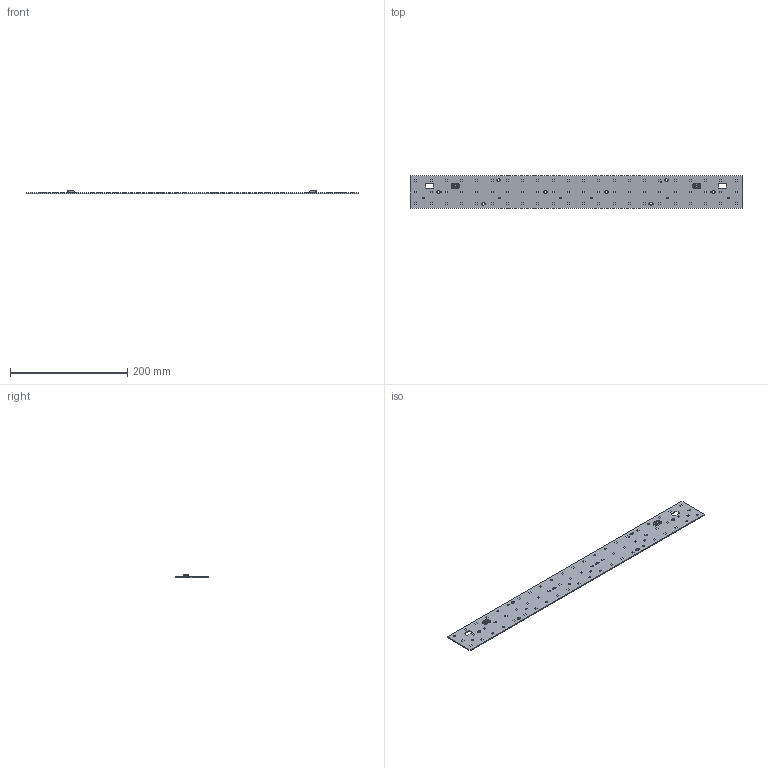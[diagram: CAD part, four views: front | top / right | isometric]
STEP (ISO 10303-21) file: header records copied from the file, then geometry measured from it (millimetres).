
FILE_DESCRIPTION((''),'2;1');
FILE_NAME('16208821_LLE-G5-55X566-4000LM','2019-01-16T10:15:20',('bernhard.fink'),(''),'CREO PARAMETRIC BY PTC INC, 2017380','CREO PARAMETRIC BY PTC INC, 2017380','');
FILE_SCHEMA(('AUTOMOTIVE_DESIGN { 1 0 10303 214 1 1 1 1 }'));
Products named in the file (1): 16208821_LLE-G5-55X566-4000LM
Bounding box: 566 x 55 x 5.2 mm (x, y, z)
Volume: 51540.5 mm3; surface area: 66387.6 mm2
Topology: 75 solids, 75 shells, 1743 faces, 4219 edges, 2595 vertices
Faces by surface type: plane 931, cylinder 452, bspline 210, sphere 62, cone 60, torus 28
Entity records: 83875 total; most frequent: CARTESIAN_POINT 19939, ORIENTED_EDGE 8328, DIRECTION 6994, PRESENTATION_STYLE_ASSIGNMENT 5982, STYLED_ITEM 4239, CURVE_STYLE 4164, EDGE_CURVE 4164, VECTOR 2696
